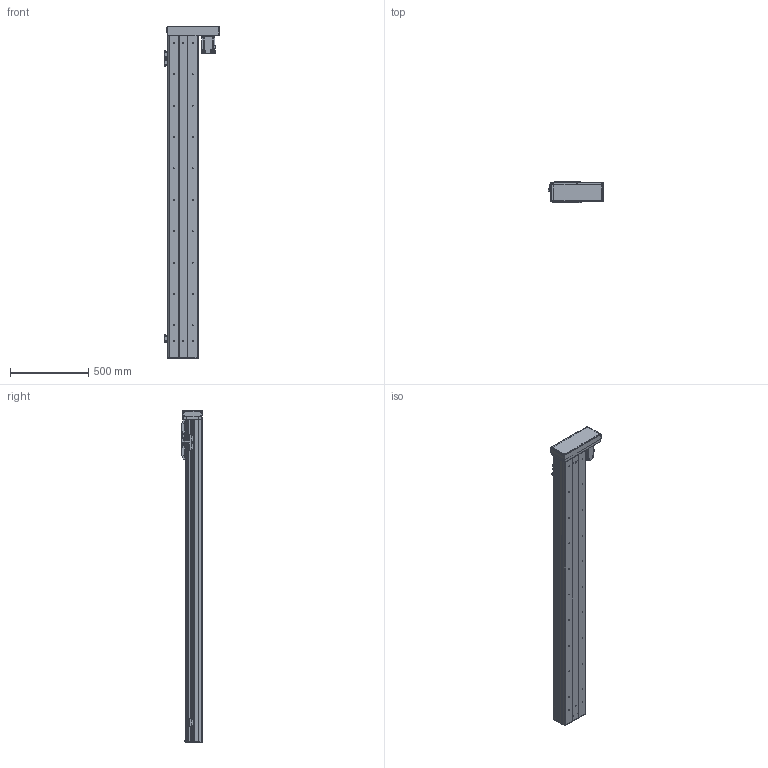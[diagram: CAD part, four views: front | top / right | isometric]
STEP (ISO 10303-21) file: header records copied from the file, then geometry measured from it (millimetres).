
FILE_DESCRIPTION(/* description */ ('MANUFACTURE'),/* implementation_level */ '2;1');
FILE_NAME(/* name */ '\\192.168.0.160\disk1\HAN SHIN Master\B-설계부문\C-표준\B-2024년\BC02-표준도면\+로봇 개선표준도면\표준 승인도 폴더 - 재작업\3D\HC Type\HC200\우병렬\HC200-R70-N-1800-L10.stp',/* time_stamp */ '2024-03-25T11:04:02+09:00',/* author */ ('User'),/* organization */ (''),/* preprocessor_version */ 'ST-DEVELOPER v18.1',/* originating_system */ 'Autodesk Inventor 2022',/* authorisation */ 'LIP');
FILE_SCHEMA (('AUTOMOTIVE_DESIGN { 1 0 10303 214 3 1 1 }'));
Products named in the file (28): HC200-R70-N-0500-L10 - 간소화; HC200 S BASE F - 1100ST; HC90 REAR COVER; HC200 TABLE COVER - 개주; HC200-STEEL SHEET F - 1100ST; LMKE2020 NUT; HR180 FRONT BLOCK; HR120 STOPPER; HC200 TABLE; HR180 FRONT BLOCK_1; HC200 SIDE COVER F - 1100ST; HC140 SHEET PLATE; HC65 TABLE SIDE COVER; M-5UT; M-5H-4; hg-kr73_; 750W MOTOR PLATE; HR200 ACRYL COVER -1; HR200 ACRYL COVER -1_1; HR160 400W LR BELT COVER; HR200 ACRYL COVER -1_2; 화살표; HG200 750W LR MOTOR PLATE_MIR; HC75 SENSOR DOG; SENSOR BRK(EE-SX674A); EE_SX674A; hsr_ftht_A-M6F_grease_nipple_joint; NIPPLE CAP(신규)
Assembly tree (49 placements, depth 2):
  HC200-R70-N-0500-L10 - 간소화
    HC200 S BASE F - 1100ST
    HC90 REAR COVER
    HC200 TABLE COVER - 개주
    HC65 TABLE SIDE COVER  x2
    HC200-STEEL SHEET F - 1100ST
    LMKE2020 NUT
    HR120 STOPPER  x2
    HR180 FRONT BLOCK
    HC200 SIDE COVER F - 1100ST  x2
    HC200 TABLE
    HR180 FRONT BLOCK_1
    HC140 SHEET PLATE  x2
    hsr_ftht_A-M6F_grease_nipple_joint  x5
    NIPPLE CAP(신규)  x5
    M-5UT  x2
    M-5H-4  x4
    hg-kr73_
    750W MOTOR PLATE
    HR200 ACRYL COVER -1
    HR200 ACRYL COVER -1_1
    HR200 ACRYL COVER -1_2  x2
    HR160 400W LR BELT COVER
    화살표  x2
    HG200 750W LR MOTOR PLATE_MIR
    HC75 SENSOR DOG
    SENSOR BRK(EE-SX674A)  x3
    EE_SX674A  x3
Bounding box: 351 x 132 x 2116 mm (x, y, z)
Volume: 14188288.6 mm3; surface area: 4309324.8 mm2
Topology: 51 solids, 51 shells, 4379 faces, 11918 edges, 7827 vertices
Faces by surface type: plane 3038, cylinder 891, cone 356, sphere 44, torus 30, bspline 20
Full cylindrical faces by diameter (mm): 1.8 x4, 2 x6, 2.459 x58, 2.5 x6, 3 x16, 3.242 x23, 3.4 x24, 3.5 x12, 4 x6, 4.134 x12, 4.5 x26, 4.917 x29, 5 x26, 5.5 x5, 5.6 x5, 5.9 x4, 6 x11, 6.5 x14, 6.6 x32, 6.647 x32, 6.8 x2, 7 x10, 7.6 x4, 8 x6, 9 x10, 9.5 x1, 10.5 x8, 11 x36, 19 x1, 20 x1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
Entity records: 112781 total; most frequent: CARTESIAN_POINT 20547, ORIENTED_EDGE 19084, DIRECTION 18086, EDGE_CURVE 9542, LINE 7852, VECTOR 7852, VERTEX_POINT 6353, AXIS2_PLACEMENT_3D 5117
